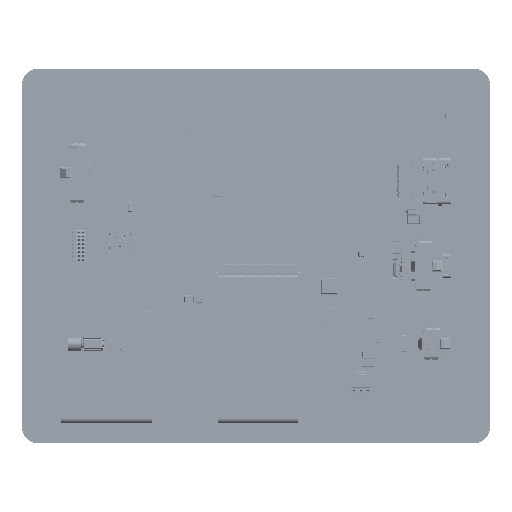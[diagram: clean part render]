
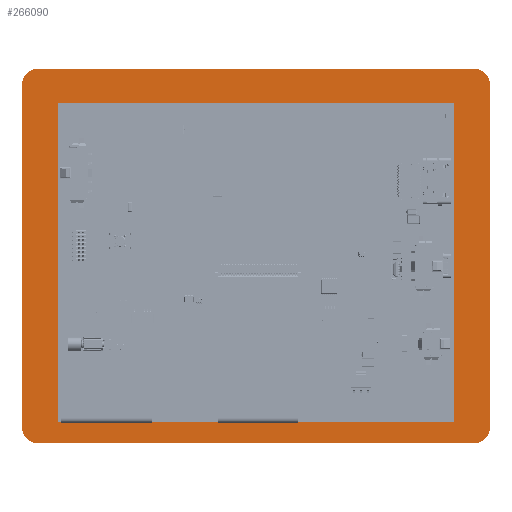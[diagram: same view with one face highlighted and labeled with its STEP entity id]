
A CAD part, top view. The second image highlights one B-rep face of the part: STEP entity #266090.
In plain terms, the highlighted planar face has unit normal (0, 0, 1) as drawn and (0, 0, -1) by its records, which use the part's own axes.
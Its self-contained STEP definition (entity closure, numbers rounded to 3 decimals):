
#885 = CARTESIAN_POINT ( 'NONE',  ( 63.35, 48.95, -0.6 ) ) ;
#9169 = CIRCLE ( 'NONE', #106991, 5. ) ;
#22640 = VECTOR ( 'NONE', #526759, 1000. ) ;
#26683 = CARTESIAN_POINT ( 'NONE',  ( 70., 60., -0.6 ) ) ;
#29152 = EDGE_LOOP ( 'NONE', ( #394574, #498774, #96328, #181230 ) ) ;
#29389 = CARTESIAN_POINT ( 'NONE',  ( 63.35, -53.05, -0.6 ) ) ;
#34455 = VERTEX_POINT ( 'NONE', #431027 ) ;
#36495 = CARTESIAN_POINT ( 'NONE',  ( -63.35, -53.05, -0.6 ) ) ;
#46918 = AXIS2_PLACEMENT_3D ( 'NONE', #59591, #74690, #124882 ) ;
#48825 = VECTOR ( 'NONE', #155776, 1000. ) ;
#59591 = CARTESIAN_POINT ( 'NONE',  ( -70., 55., -0.6 ) ) ;
#67129 = FACE_BOUND ( 'NONE', #29152, .T. ) ;
#70529 = VECTOR ( 'NONE', #358540, 1000. ) ;
#74690 = DIRECTION ( 'NONE',  ( 0., 0., 1. ) ) ;
#90249 = CARTESIAN_POINT ( 'NONE',  ( 70., -60., -0.6 ) ) ;
#96328 = ORIENTED_EDGE ( 'NONE', *, *, #469930, .F. ) ;
#102999 = AXIS2_PLACEMENT_3D ( 'NONE', #250510, #717991, #192894 ) ;
#103083 = CARTESIAN_POINT ( 'NONE',  ( -70., -60., -0.6 ) ) ;
#106991 = AXIS2_PLACEMENT_3D ( 'NONE', #446448, #327613, #385121 ) ;
#119154 = AXIS2_PLACEMENT_3D ( 'NONE', #711891, #531674, #186795 ) ;
#119620 = VERTEX_POINT ( 'NONE', #389377 ) ;
#121077 = FACE_OUTER_BOUND ( 'NONE', #607977, .T. ) ;
#124882 = DIRECTION ( 'NONE',  ( 1., 0., 0. ) ) ;
#130866 = DIRECTION ( 'NONE',  ( 0., 1., 0. ) ) ;
#152225 = EDGE_CURVE ( 'NONE', #695690, #676916, #559554, .T. ) ;
#155776 = DIRECTION ( 'NONE',  ( -1., 0., 0. ) ) ;
#171036 = DIRECTION ( 'NONE',  ( 1., 0., 0. ) ) ;
#175664 = EDGE_CURVE ( 'NONE', #500906, #469678, #393423, .T. ) ;
#175830 = VECTOR ( 'NONE', #756727, 1000. ) ;
#181230 = ORIENTED_EDGE ( 'NONE', *, *, #544419, .F. ) ;
#186795 = DIRECTION ( 'NONE',  ( -1., 0., 0. ) ) ;
#189963 = LINE ( 'NONE', #240033, #70529 ) ;
#192894 = DIRECTION ( 'NONE',  ( 1., 0., 0. ) ) ;
#200369 = ORIENTED_EDGE ( 'NONE', *, *, #152225, .T. ) ;
#202727 = ORIENTED_EDGE ( 'NONE', *, *, #209949, .T. ) ;
#209949 = EDGE_CURVE ( 'NONE', #119620, #433564, #189963, .T. ) ;
#221268 = CARTESIAN_POINT ( 'NONE',  ( -70., 55., -0.6 ) ) ;
#234801 = DIRECTION ( 'NONE',  ( 0., -1., 0. ) ) ;
#239751 = VECTOR ( 'NONE', #171036, 1000. ) ;
#240033 = CARTESIAN_POINT ( 'NONE',  ( 75., 55., -0.6 ) ) ;
#249879 = LINE ( 'NONE', #885, #629170 ) ;
#250510 = CARTESIAN_POINT ( 'NONE',  ( 70., 55., -0.6 ) ) ;
#266090 = ADVANCED_FACE ( 'NONE', ( #121077, #67129 ), #297300, .F. ) ;
#268701 = VERTEX_POINT ( 'NONE', #36495 ) ;
#274069 = CARTESIAN_POINT ( 'NONE',  ( 63.35, 48.95, -0.6 ) ) ;
#274914 = EDGE_CURVE ( 'NONE', #433564, #644923, #450097, .T. ) ;
#284819 = VECTOR ( 'NONE', #130866, 1000. ) ;
#289063 = CARTESIAN_POINT ( 'NONE',  ( 70., 60., -0.6 ) ) ;
#297300 = PLANE ( 'NONE',  #46918 ) ;
#314473 = DIRECTION ( 'NONE',  ( 1., 0., 0. ) ) ;
#327613 = DIRECTION ( 'NONE',  ( 0., 0., -1. ) ) ;
#327799 = EDGE_CURVE ( 'NONE', #676916, #691992, #407786, .T. ) ;
#332845 = ORIENTED_EDGE ( 'NONE', *, *, #586718, .T. ) ;
#335410 = LINE ( 'NONE', #90249, #389942 ) ;
#351780 = AXIS2_PLACEMENT_3D ( 'NONE', #221268, #454984, #314473 ) ;
#358540 = DIRECTION ( 'NONE',  ( 0., -1., 0. ) ) ;
#363728 = CARTESIAN_POINT ( 'NONE',  ( -63.35, 48.95, -0.6 ) ) ;
#385121 = DIRECTION ( 'NONE',  ( -1., 0., 0. ) ) ;
#389377 = CARTESIAN_POINT ( 'NONE',  ( 75., 55., -0.6 ) ) ;
#389942 = VECTOR ( 'NONE', #557816, 1000. ) ;
#393423 = LINE ( 'NONE', #696163, #239751 ) ;
#394574 = ORIENTED_EDGE ( 'NONE', *, *, #596863, .F. ) ;
#397113 = LINE ( 'NONE', #29389, #48825 ) ;
#407786 = LINE ( 'NONE', #289063, #175830 ) ;
#421539 = CIRCLE ( 'NONE', #102999, 5. ) ;
#424051 = ORIENTED_EDGE ( 'NONE', *, *, #327799, .T. ) ;
#431027 = CARTESIAN_POINT ( 'NONE',  ( -75., -55., -0.6 ) ) ;
#433564 = VERTEX_POINT ( 'NONE', #573556 ) ;
#446448 = CARTESIAN_POINT ( 'NONE',  ( -70., -55., -0.6 ) ) ;
#450085 = ORIENTED_EDGE ( 'NONE', *, *, #555209, .T. ) ;
#450097 = CIRCLE ( 'NONE', #119154, 5. ) ;
#454984 = DIRECTION ( 'NONE',  ( 0., 0., -1. ) ) ;
#461029 = CARTESIAN_POINT ( 'NONE',  ( 63.35, -53.05, -0.6 ) ) ;
#469678 = VERTEX_POINT ( 'NONE', #274069 ) ;
#469930 = EDGE_CURVE ( 'NONE', #268701, #500906, #724807, .T. ) ;
#475313 = ORIENTED_EDGE ( 'NONE', *, *, #582004, .T. ) ;
#489922 = CARTESIAN_POINT ( 'NONE',  ( -75., 55., -0.6 ) ) ;
#492565 = VERTEX_POINT ( 'NONE', #461029 ) ;
#498774 = ORIENTED_EDGE ( 'NONE', *, *, #175664, .F. ) ;
#500906 = VERTEX_POINT ( 'NONE', #363728 ) ;
#515396 = CARTESIAN_POINT ( 'NONE',  ( -75., 55., -0.6 ) ) ;
#526759 = DIRECTION ( 'NONE',  ( 0., 1., 0. ) ) ;
#531674 = DIRECTION ( 'NONE',  ( 0., 0., -1. ) ) ;
#544419 = EDGE_CURVE ( 'NONE', #492565, #268701, #397113, .T. ) ;
#555209 = EDGE_CURVE ( 'NONE', #691992, #119620, #421539, .T. ) ;
#557816 = DIRECTION ( 'NONE',  ( -1., 0., 0. ) ) ;
#559554 = CIRCLE ( 'NONE', #351780, 5. ) ;
#563530 = CARTESIAN_POINT ( 'NONE',  ( 70., -60., -0.6 ) ) ;
#573021 = EDGE_CURVE ( 'NONE', #34455, #695690, #584312, .T. ) ;
#573556 = CARTESIAN_POINT ( 'NONE',  ( 75., -55., -0.6 ) ) ;
#582004 = EDGE_CURVE ( 'NONE', #644923, #633940, #335410, .T. ) ;
#584312 = LINE ( 'NONE', #515396, #22640 ) ;
#586718 = EDGE_CURVE ( 'NONE', #633940, #34455, #9169, .T. ) ;
#596863 = EDGE_CURVE ( 'NONE', #469678, #492565, #249879, .T. ) ;
#602169 = CARTESIAN_POINT ( 'NONE',  ( -63.35, 48.95, -0.6 ) ) ;
#607977 = EDGE_LOOP ( 'NONE', ( #200369, #424051, #450085, #202727, #658332, #475313, #332845, #736499 ) ) ;
#629170 = VECTOR ( 'NONE', #234801, 1000. ) ;
#633940 = VERTEX_POINT ( 'NONE', #103083 ) ;
#644923 = VERTEX_POINT ( 'NONE', #563530 ) ;
#658332 = ORIENTED_EDGE ( 'NONE', *, *, #274914, .T. ) ;
#664175 = CARTESIAN_POINT ( 'NONE',  ( -70., 60., -0.6 ) ) ;
#676916 = VERTEX_POINT ( 'NONE', #664175 ) ;
#691992 = VERTEX_POINT ( 'NONE', #26683 ) ;
#695690 = VERTEX_POINT ( 'NONE', #489922 ) ;
#696163 = CARTESIAN_POINT ( 'NONE',  ( 63.35, 48.95, -0.6 ) ) ;
#711891 = CARTESIAN_POINT ( 'NONE',  ( 70., -55., -0.6 ) ) ;
#717991 = DIRECTION ( 'NONE',  ( 0., 0., -1. ) ) ;
#724807 = LINE ( 'NONE', #602169, #284819 ) ;
#736499 = ORIENTED_EDGE ( 'NONE', *, *, #573021, .T. ) ;
#756727 = DIRECTION ( 'NONE',  ( 1., 0., 0. ) ) ;
